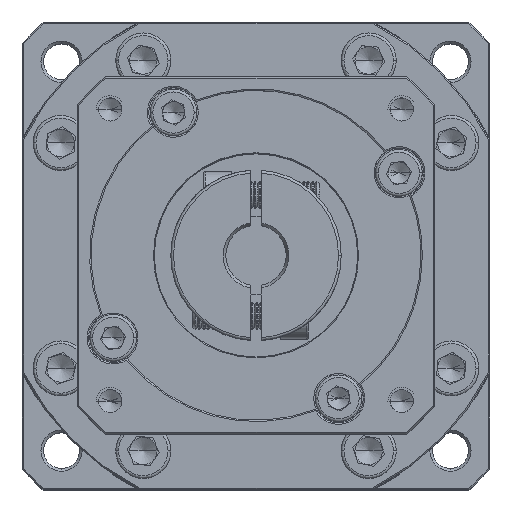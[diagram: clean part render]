
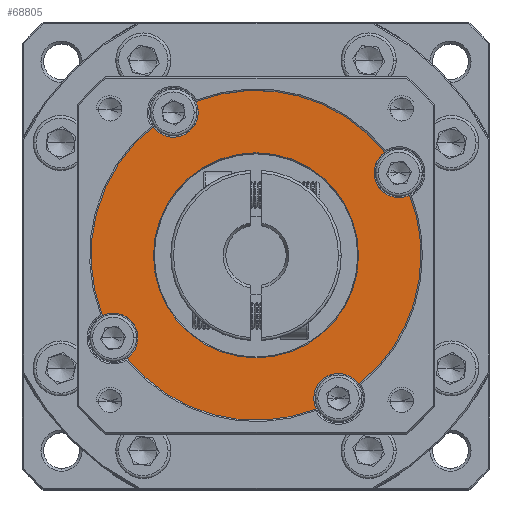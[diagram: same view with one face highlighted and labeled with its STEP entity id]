
A CAD part, top view. The second image highlights one B-rep face of the part: STEP entity #68805.
In plain terms, the highlighted planar face has unit normal (0, 0, 1).
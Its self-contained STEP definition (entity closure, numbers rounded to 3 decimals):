
#971 = EDGE_CURVE ( 'NONE', #59871, #81588, #122639, .T. ) ;
#1026 = DIRECTION ( 'NONE',  ( 0., 0., 1. ) ) ;
#1078 = CARTESIAN_POINT ( 'NONE',  ( -73.935, 34.27, 15.321 ) ) ;
#1343 = EDGE_CURVE ( 'NONE', #115598, #134338, #70052, .T. ) ;
#2264 = DIRECTION ( 'NONE',  ( 1., 0., 0. ) ) ;
#2718 = DIRECTION ( 'NONE',  ( 0., 0., 1. ) ) ;
#2884 = DIRECTION ( 'NONE',  ( 0., 0., 1. ) ) ;
#2998 = CARTESIAN_POINT ( 'NONE',  ( -88.935, 60.251, 15.321 ) ) ;
#4478 = CIRCLE ( 'NONE', #112494, 4.5 ) ;
#5090 = AXIS2_PLACEMENT_3D ( 'NONE', #135488, #134596, #41406 ) ;
#7823 = CARTESIAN_POINT ( 'NONE',  ( -47.954, 49.27, 15.321 ) ) ;
#9338 = EDGE_CURVE ( 'NONE', #127567, #32326, #15646, .T. ) ;
#10102 = ORIENTED_EDGE ( 'NONE', *, *, #75195, .F. ) ;
#10503 = DIRECTION ( 'NONE',  ( 0., 0., 1. ) ) ;
#10644 = CARTESIAN_POINT ( 'NONE',  ( -55.217, 10.825, 15.321 ) ) ;
#11890 = PLANE ( 'NONE',  #42427 ) ;
#12874 = CARTESIAN_POINT ( 'NONE',  ( -73.935, 34.27, 15.321 ) ) ;
#14197 = VERTEX_POINT ( 'NONE', #28802 ) ;
#15646 = CIRCLE ( 'NONE', #127940, 4.5 ) ;
#15914 = AXIS2_PLACEMENT_3D ( 'NONE', #87400, #77319, #24515 ) ;
#18800 = DIRECTION ( 'NONE',  ( 1., 0., 0. ) ) ;
#22156 = DIRECTION ( 'NONE',  ( 1., 0., 0. ) ) ;
#23033 = DIRECTION ( 'NONE',  ( 0., 0., 1. ) ) ;
#24027 = ORIENTED_EDGE ( 'NONE', *, *, #71334, .T. ) ;
#24515 = DIRECTION ( 'NONE',  ( 1., 0., 0. ) ) ;
#24919 = ORIENTED_EDGE ( 'NONE', *, *, #105306, .F. ) ;
#25940 = DIRECTION ( 'NONE',  ( 0., 0., 1. ) ) ;
#26373 = AXIS2_PLACEMENT_3D ( 'NONE', #134724, #133414, #70462 ) ;
#26957 = FACE_OUTER_BOUND ( 'NONE', #95645, .T. ) ;
#28729 = VERTEX_POINT ( 'NONE', #111928 ) ;
#28802 = CARTESIAN_POINT ( 'NONE',  ( -92.579, 34.27, 15.321 ) ) ;
#29255 = EDGE_CURVE ( 'NONE', #66491, #32326, #80748, .T. ) ;
#29481 = CARTESIAN_POINT ( 'NONE',  ( -92.652, 57.715, 15.321 ) ) ;
#32233 = DIRECTION ( 'NONE',  ( 1., 0., 0. ) ) ;
#32326 = VERTEX_POINT ( 'NONE', #121093 ) ;
#33463 = CARTESIAN_POINT ( 'NONE',  ( -95.415, 19.27, 15.321 ) ) ;
#33610 = DIRECTION ( 'NONE',  ( 1., 0., 0. ) ) ;
#33973 = DIRECTION ( 'NONE',  ( 1., 0., 0. ) ) ;
#38055 = DIRECTION ( 'NONE',  ( 0., 0., 1. ) ) ;
#38205 = CIRCLE ( 'NONE', #41619, 30. ) ;
#38330 = CIRCLE ( 'NONE', #57709, 18.644 ) ;
#41406 = DIRECTION ( 'NONE',  ( 1., 0., 0. ) ) ;
#41491 = VERTEX_POINT ( 'NONE', #66121 ) ;
#41619 = AXIS2_PLACEMENT_3D ( 'NONE', #136215, #10503, #18800 ) ;
#42087 = VERTEX_POINT ( 'NONE', #61178 ) ;
#42427 = AXIS2_PLACEMENT_3D ( 'NONE', #54527, #2718, #2264 ) ;
#42947 = DIRECTION ( 'NONE',  ( 0., 0., 1. ) ) ;
#43257 = AXIS2_PLACEMENT_3D ( 'NONE', #84985, #1026, #64252 ) ;
#43750 = CARTESIAN_POINT ( 'NONE',  ( -62.989, 6.338, 15.321 ) ) ;
#44551 = AXIS2_PLACEMENT_3D ( 'NONE', #46335, #108769, #118915 ) ;
#45465 = CIRCLE ( 'NONE', #26373, 4.5 ) ;
#46335 = CARTESIAN_POINT ( 'NONE',  ( -58.935, 8.289, 15.321 ) ) ;
#47291 = DIRECTION ( 'NONE',  ( 0., 0., 1. ) ) ;
#48044 = EDGE_CURVE ( 'NONE', #134338, #113230, #112838, .T. ) ;
#48196 = CARTESIAN_POINT ( 'NONE',  ( -73.935, 34.27, 15.321 ) ) ;
#48291 = AXIS2_PLACEMENT_3D ( 'NONE', #7823, #38055, #111985 ) ;
#50595 = ORIENTED_EDGE ( 'NONE', *, *, #77457, .T. ) ;
#53372 = ORIENTED_EDGE ( 'NONE', *, *, #971, .F. ) ;
#53394 = CARTESIAN_POINT ( 'NONE',  ( -43.935, 34.27, 15.321 ) ) ;
#54527 = CARTESIAN_POINT ( 'NONE',  ( -73.935, 34.27, 15.321 ) ) ;
#57709 = AXIS2_PLACEMENT_3D ( 'NONE', #1078, #74051, #22156 ) ;
#59871 = VERTEX_POINT ( 'NONE', #127377 ) ;
#61178 = CARTESIAN_POINT ( 'NONE',  ( -52.454, 49.27, 15.321 ) ) ;
#63510 = ORIENTED_EDGE ( 'NONE', *, *, #88634, .T. ) ;
#64055 = CIRCLE ( 'NONE', #66120, 18.644 ) ;
#64252 = DIRECTION ( 'NONE',  ( 1., 0., 0. ) ) ;
#66120 = AXIS2_PLACEMENT_3D ( 'NONE', #104295, #135463, #93704 ) ;
#66121 = CARTESIAN_POINT ( 'NONE',  ( -50.49, 52.987, 15.321 ) ) ;
#66491 = VERTEX_POINT ( 'NONE', #29481 ) ;
#68805 = ADVANCED_FACE ( 'NONE', ( #84536, #26957 ), #11890, .T. ) ;
#69698 = CIRCLE ( 'NONE', #48291, 4.5 ) ;
#70052 = CIRCLE ( 'NONE', #43257, 4.5 ) ;
#70462 = DIRECTION ( 'NONE',  ( 1., 0., 0. ) ) ;
#71334 = EDGE_CURVE ( 'NONE', #41491, #81588, #126497, .T. ) ;
#74051 = DIRECTION ( 'NONE',  ( 0., 0., -1. ) ) ;
#75195 = EDGE_CURVE ( 'NONE', #42087, #28729, #45465, .T. ) ;
#76407 = CIRCLE ( 'NONE', #114893, 30. ) ;
#76924 = CARTESIAN_POINT ( 'NONE',  ( -97.379, 15.553, 15.321 ) ) ;
#77319 = DIRECTION ( 'NONE',  ( 0., 0., 1. ) ) ;
#77457 = EDGE_CURVE ( 'NONE', #98982, #113230, #38205, .T. ) ;
#77789 = ORIENTED_EDGE ( 'NONE', *, *, #48044, .F. ) ;
#79648 = EDGE_CURVE ( 'NONE', #115598, #87005, #115967, .T. ) ;
#80090 = EDGE_CURVE ( 'NONE', #41491, #42087, #69698, .T. ) ;
#80748 = CIRCLE ( 'NONE', #85062, 30. ) ;
#81588 = VERTEX_POINT ( 'NONE', #132131 ) ;
#82130 = ORIENTED_EDGE ( 'NONE', *, *, #79648, .T. ) ;
#82435 = ORIENTED_EDGE ( 'NONE', *, *, #1343, .F. ) ;
#84536 = FACE_BOUND ( 'NONE', #131311, .T. ) ;
#84985 = CARTESIAN_POINT ( 'NONE',  ( -58.935, 8.289, 15.321 ) ) ;
#85062 = AXIS2_PLACEMENT_3D ( 'NONE', #109928, #25940, #88379 ) ;
#87005 = VERTEX_POINT ( 'NONE', #53394 ) ;
#87094 = AXIS2_PLACEMENT_3D ( 'NONE', #2998, #42947, #90505 ) ;
#87400 = CARTESIAN_POINT ( 'NONE',  ( -88.935, 60.251, 15.321 ) ) ;
#87831 = ORIENTED_EDGE ( 'NONE', *, *, #106476, .F. ) ;
#88379 = DIRECTION ( 'NONE',  ( 1., 0., 0. ) ) ;
#88634 = EDGE_CURVE ( 'NONE', #132674, #14197, #64055, .T. ) ;
#90505 = DIRECTION ( 'NONE',  ( 1., 0., 0. ) ) ;
#90935 = DIRECTION ( 'NONE',  ( 1., 0., 0. ) ) ;
#93704 = DIRECTION ( 'NONE',  ( 1., 0., 0. ) ) ;
#95645 = EDGE_LOOP ( 'NONE', ( #24919, #50595, #77789, #82435, #82130, #124030, #10102, #124010, #24027, #53372, #87831, #125698, #128235 ) ) ;
#96849 = DIRECTION ( 'NONE',  ( 0., 0., 1. ) ) ;
#98982 = VERTEX_POINT ( 'NONE', #76924 ) ;
#102076 = ORIENTED_EDGE ( 'NONE', *, *, #124387, .T. ) ;
#104295 = CARTESIAN_POINT ( 'NONE',  ( -73.935, 34.27, 15.321 ) ) ;
#105306 = EDGE_CURVE ( 'NONE', #98982, #127567, #4478, .T. ) ;
#106476 = EDGE_CURVE ( 'NONE', #66491, #59871, #123501, .T. ) ;
#107004 = CARTESIAN_POINT ( 'NONE',  ( -99.915, 19.27, 15.321 ) ) ;
#108497 = CARTESIAN_POINT ( 'NONE',  ( -55.29, 34.27, 15.321 ) ) ;
#108769 = DIRECTION ( 'NONE',  ( 0., 0., 1. ) ) ;
#109928 = CARTESIAN_POINT ( 'NONE',  ( -73.935, 34.27, 15.321 ) ) ;
#111928 = CARTESIAN_POINT ( 'NONE',  ( -46.002, 45.215, 15.321 ) ) ;
#111985 = DIRECTION ( 'NONE',  ( 1., 0., 0. ) ) ;
#112494 = AXIS2_PLACEMENT_3D ( 'NONE', #107004, #23033, #32233 ) ;
#112838 = CIRCLE ( 'NONE', #44551, 4.5 ) ;
#113230 = VERTEX_POINT ( 'NONE', #43750 ) ;
#114893 = AXIS2_PLACEMENT_3D ( 'NONE', #48196, #47291, #90935 ) ;
#115147 = CARTESIAN_POINT ( 'NONE',  ( -63.435, 8.289, 15.321 ) ) ;
#115598 = VERTEX_POINT ( 'NONE', #10644 ) ;
#115967 = CIRCLE ( 'NONE', #5090, 30. ) ;
#118915 = DIRECTION ( 'NONE',  ( 1., 0., 0. ) ) ;
#121093 = CARTESIAN_POINT ( 'NONE',  ( -101.867, 23.325, 15.321 ) ) ;
#122639 = CIRCLE ( 'NONE', #15914, 4.5 ) ;
#123501 = CIRCLE ( 'NONE', #87094, 4.5 ) ;
#124010 = ORIENTED_EDGE ( 'NONE', *, *, #80090, .F. ) ;
#124030 = ORIENTED_EDGE ( 'NONE', *, *, #130022, .T. ) ;
#124387 = EDGE_CURVE ( 'NONE', #14197, #132674, #38330, .T. ) ;
#125698 = ORIENTED_EDGE ( 'NONE', *, *, #29255, .T. ) ;
#126305 = AXIS2_PLACEMENT_3D ( 'NONE', #12874, #96849, #33973 ) ;
#126497 = CIRCLE ( 'NONE', #126305, 30. ) ;
#127317 = CARTESIAN_POINT ( 'NONE',  ( -99.915, 19.27, 15.321 ) ) ;
#127377 = CARTESIAN_POINT ( 'NONE',  ( -84.435, 60.251, 15.321 ) ) ;
#127567 = VERTEX_POINT ( 'NONE', #33463 ) ;
#127940 = AXIS2_PLACEMENT_3D ( 'NONE', #127317, #2884, #33610 ) ;
#128235 = ORIENTED_EDGE ( 'NONE', *, *, #9338, .F. ) ;
#130022 = EDGE_CURVE ( 'NONE', #87005, #28729, #76407, .T. ) ;
#131311 = EDGE_LOOP ( 'NONE', ( #63510, #102076 ) ) ;
#132131 = CARTESIAN_POINT ( 'NONE',  ( -84.88, 62.202, 15.321 ) ) ;
#132674 = VERTEX_POINT ( 'NONE', #108497 ) ;
#133414 = DIRECTION ( 'NONE',  ( 0., 0., 1. ) ) ;
#134338 = VERTEX_POINT ( 'NONE', #115147 ) ;
#134596 = DIRECTION ( 'NONE',  ( 0., 0., 1. ) ) ;
#134724 = CARTESIAN_POINT ( 'NONE',  ( -47.954, 49.27, 15.321 ) ) ;
#135463 = DIRECTION ( 'NONE',  ( 0., 0., -1. ) ) ;
#135488 = CARTESIAN_POINT ( 'NONE',  ( -73.935, 34.27, 15.321 ) ) ;
#136215 = CARTESIAN_POINT ( 'NONE',  ( -73.935, 34.27, 15.321 ) ) ;
